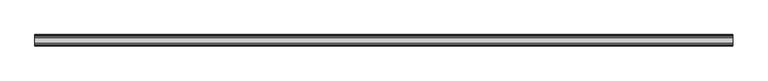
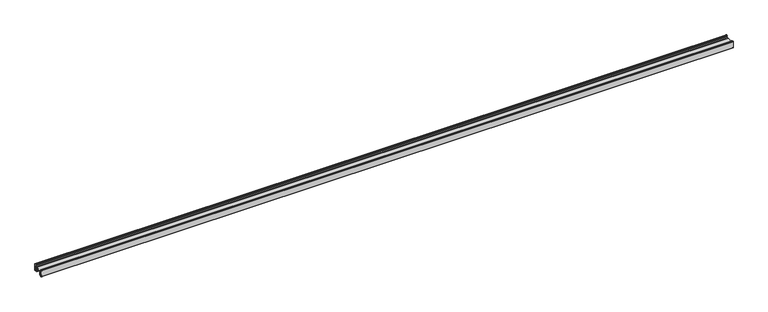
"""IFC4 building model written with IfcOpenShell, lengths in millimetres: light fixture geometry, GENILED_Осветительный шинопровод : Шинопровод однофазный 2000 Белый."""

from ifc_helpers import new_model, si_unit, point, frame, frame_2d, origin, place, context, project, spatial, polyline, circle_curve, trimmed, segment, composite_curve, outline, extrude, source, transform, mapped, element, save


def light_fixture_f49424fd(model_context):
    return source(origin(), model_context, "Body", "SweptSolid", [
        extrude(outline(composite_curve([segment(trimmed(circle_curve(frame_2d((-12.875, -0.825)), 0.325), [point((-12.875, -0.5))], [point((-12.875, -1.15))], False, "CARTESIAN"), True, "CONTINUOUS"), segment(polyline([(-12.875, -1.15), (-15.85, -1.15), (-15.85, -5.8), (-11.3843464, -5.8)]), True, "CONTINUOUS"), segment(trimmed(circle_curve(frame_2d((-9.85, -6.5319708)), 1.7), [point((-11.3843464, -5.8))], [point((-8.3156536, -5.8))], False, "CARTESIAN"), True, "CONTINUOUS"), segment(polyline([(-8.3156536, -5.8), (8.3156536, -5.8)]), True, "CONTINUOUS"), segment(trimmed(circle_curve(frame_2d((9.85, -6.5319708)), 1.7), [point((8.3156536, -5.8))], [point((11.3843464, -5.8))], False, "CARTESIAN"), True, "CONTINUOUS"), segment(polyline([(11.3843464, -5.8), (15.85, -5.8), (15.85, -1.15), (12.875, -1.15)]), True, "CONTINUOUS"), segment(trimmed(circle_curve(frame_2d((12.875, -0.825)), 0.325), [point((12.875, -1.15))], [point((12.875, -0.5))], False, "CARTESIAN"), True, "CONTINUOUS"), segment(polyline([(12.875, -0.5), (15.85, -0.5), (15.85, -0.325)]), True, "CONTINUOUS"), segment(trimmed(circle_curve(frame_2d((16.175, -0.325)), 0.325), [point((15.85, -0.325))], [point((16.5, -0.325))], False, "CARTESIAN"), True, "CONTINUOUS"), segment(polyline([(16.5, -0.325), (16.5, -19.0), (7.6, -19.0), (7.6, -17.525)]), True, "CONTINUOUS"), segment(trimmed(circle_curve(frame_2d((7.925, -17.525)), 0.325), [point((7.6, -17.525))], [point((8.25, -17.525))], False, "CARTESIAN"), True, "CONTINUOUS"), segment(polyline([(8.25, -17.525), (8.25, -18.35), (13.2, -18.35), (13.2, -16.425)]), True, "CONTINUOUS"), segment(trimmed(circle_curve(frame_2d((13.525, -16.425)), 0.325), [point((13.2, -16.425))], [point((13.85, -16.425))], False, "CARTESIAN"), True, "CONTINUOUS"), segment(polyline([(13.85, -16.425), (13.85, -18.35), (15.85, -18.35), (15.85, -6.55), (13.85, -6.55), (13.85, -8.175)]), True, "CONTINUOUS"), segment(trimmed(circle_curve(frame_2d((13.525, -8.175)), 0.325), [point((13.85, -8.175))], [point((13.2, -8.175))], False, "CARTESIAN"), True, "CONTINUOUS"), segment(polyline([(13.2, -8.175), (13.2, -6.55), (-13.2, -6.55), (-13.2, -8.175)]), True, "CONTINUOUS"), segment(trimmed(circle_curve(frame_2d((-13.525, -8.175)), 0.325), [point((-13.2, -8.175))], [point((-13.85, -8.175))], False, "CARTESIAN"), True, "CONTINUOUS"), segment(polyline([(-13.85, -8.175), (-13.85, -6.55), (-15.85, -6.55), (-15.85, -18.35), (-13.85, -18.35), (-13.85, -16.425)]), True, "CONTINUOUS"), segment(trimmed(circle_curve(frame_2d((-13.525, -16.425)), 0.325), [point((-13.85, -16.425))], [point((-13.2, -16.425))], False, "CARTESIAN"), True, "CONTINUOUS"), segment(polyline([(-13.2, -16.425), (-13.2, -18.35), (-8.0, -18.35), (-8.0, -17.525)]), True, "CONTINUOUS"), segment(trimmed(circle_curve(frame_2d((-7.675, -17.525)), 0.325), [point((-8.0, -17.525))], [point((-7.35, -17.525))], False, "CARTESIAN"), True, "CONTINUOUS"), segment(polyline([(-7.35, -17.525), (-7.35, -19.0), (-14.0, -19.0), (-14.0, -20.2), (-15.5, -20.2)]), True, "CONTINUOUS"), segment(trimmed(circle_curve(frame_2d((-15.5, -19.2)), 1.0), [point((-15.5, -20.2))], [point((-16.5, -19.2))], False, "CARTESIAN"), True, "CONTINUOUS"), segment(polyline([(-16.5, -19.2), (-16.5, -0.325)]), True, "CONTINUOUS"), segment(trimmed(circle_curve(frame_2d((-16.175, -0.325)), 0.325), [point((-16.5, -0.325))], [point((-15.85, -0.325))], False, "CARTESIAN"), True, "CONTINUOUS"), segment(polyline([(-15.85, -0.325), (-15.85, -0.5), (-12.875, -0.5)]), True, "CONTINUOUS")], self_intersect=False)), frame((0.0, 0.0, 0.0), z_axis=(1.0, 0.0, 0.0), x_axis=(0.0, 1.0, 0.0)), (0.0, 0.0, 1.0), 2000.0),
        extrude(outline(polyline([(2000.0, 9.7301861), (2000.0, 8.9301861), (0.0, 8.9301861), (0.0, 9.7301861), (2000.0, 9.7301861)])), frame((0.0, 0.0, -14.1890619), z_axis=(0.0, 0.0, 1.0), x_axis=(1.0, 0.0, 0.0)), (0.0, 0.0, 1.0), 3.2),
        extrude(outline(polyline([(2000.0, -8.9301861), (2000.0, -9.7301861), (0.0, -9.7301861), (0.0, -8.9301861), (2000.0, -8.9301861)])), frame((0.0, 0.0, -14.1890619), z_axis=(0.0, 0.0, 1.0), x_axis=(1.0, 0.0, 0.0)), (0.0, 0.0, 1.0), 3.2),
        extrude(outline(polyline([(7.8801861, -9.6390619), (14.6301861, -9.6390619), (14.6301861, -7.1890619), (15.8301861, -7.1890619), (15.8301861, -10.9390619), (11.2801861, -10.9390619), (11.2801861, -14.2390619), (15.8301861, -14.2390619), (15.8301861, -17.9890619), (14.6301861, -17.9890619), (14.6301861, -15.5390619), (7.8801861, -15.5390619), (7.8801861, -13.4390619), (8.9801861, -13.4390619), (8.9801861, -14.3890619), (9.9801861, -14.3890619), (9.9801861, -10.7890619), (8.9801861, -10.7890619), (8.9801861, -11.7390619), (7.8801861, -11.7390619), (7.8801861, -9.6390619)])), frame((0.0, 0.0, 0.0), z_axis=(1.0, 0.0, 0.0), x_axis=(0.0, 1.0, 0.0)), (0.0, 0.0, 1.0), 2000.0),
        extrude(outline(polyline([(-7.6301861, -9.6390619), (-7.6301861, -11.7390619), (-8.7301861, -11.7390619), (-8.7301861, -10.7890619), (-9.7301861, -10.7890619), (-9.7301861, -14.3890619), (-8.7301861, -14.3890619), (-8.7301861, -13.4390619), (-7.6301861, -13.4390619), (-7.6301861, -15.5390619), (-14.6301861, -15.5390619), (-14.6301861, -17.9890619), (-15.8301861, -17.9890619), (-15.8301861, -14.2390619), (-11.0301861, -14.2390619), (-11.0301861, -10.9390619), (-15.8301861, -10.9390619), (-15.8301861, -7.1890619), (-14.6301861, -7.1890619), (-14.6301861, -9.6390619), (-7.6301861, -9.6390619)])), frame((0.0, 0.0, 0.0), z_axis=(1.0, 0.0, 0.0), x_axis=(0.0, 1.0, 0.0)), (0.0, 0.0, 1.0), 2000.0),
    ])


if __name__ == "__main__":
    model = new_model("IFC4")
    model_context = context("Model", 3, world=origin())
    ifc_project = project(units=[si_unit("LENGTHUNIT", "METRE", prefix="MILLI")], contexts=[model_context])
    site = spatial("IfcSite", under=ifc_project)
    building = spatial("IfcBuilding", under=site)
    placement = place(None, origin())
    light_fixture_shape = light_fixture_f49424fd(model_context)
    element("IfcLightFixture", 1, ObjectType="GENILED_Осветительный шинопровод : Шинопровод однофазный 2000 Белый", at=placement, inside=building, context=model_context, shape_type="MappedRepresentation", body=[
        mapped(light_fixture_shape, transform((0.0, 0.0, 0.0), x_axis=(1.0, 0.0, 0.0), y_axis=(0.0, 1.0, 0.0), z_axis=(0.0, 0.0, 1.0))),
    ])
    save(model, "model.ifc")
